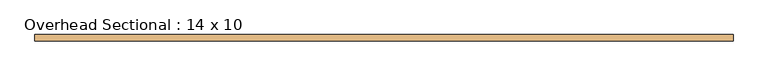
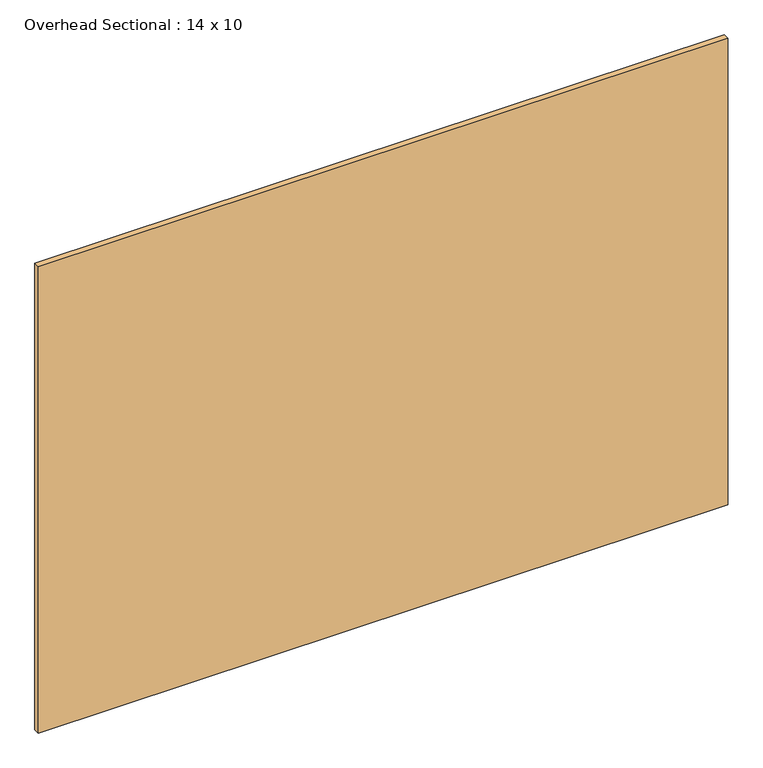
"""IFC4 building model written with IfcOpenShell, lengths in millimetres: door geometry, Overhead Sectional : 14 x 10."""

import ifcopenshell
import ifcopenshell.guid

model = None  # the IFC model being written
_history = None  # IfcOwnerHistory: only IFC2X3 demands one
_inside = {}  # id of a spatial element -> (the spatial element, [elements in it])
_under = {}  # id of a project, library or spatial element -> (it, [spatial elements below it])
_declared = {}  # id of a project -> (the project, [libraries it declares])
_typed = {}  # id of a type object -> (the type object, [elements of that type])
_made_of = {}  # id of a material, layer set ... -> (it, [elements and type objects made of it])


def new_model(schema):
    """Start an empty IFC model of exactly this schema.

    Asked for "IFC4X3", IfcOpenShell would pick the latest addendum, in which some entities
    have other attributes; the version numbers below select the first issue.
    IFC2X3 requires an IfcOwnerHistory on every rooted entity: one is made here for all.
    """
    global model, _history
    if schema == "IFC4X3":
        model = ifcopenshell.file(schema_version=(4, 3, 0, 0))
    else:
        model = ifcopenshell.file(schema=schema)
    _inside.clear()
    _under.clear()
    _declared.clear()
    _typed.clear()
    _made_of.clear()
    _history = None
    if model.schema == "IFC2X3":
        org = make("IfcOrganization", Name="unknown")
        user = make(
            "IfcPersonAndOrganization",
            ThePerson=make("IfcPerson", FamilyName="unknown"),
            TheOrganization=org,
        )
        app = make(
            "IfcApplication",
            ApplicationDeveloper=org,
            Version="unknown",
            ApplicationFullName="unknown",
            ApplicationIdentifier="unknown",
        )
        _history = make(
            "IfcOwnerHistory",
            OwningUser=user,
            OwningApplication=app,
            ChangeAction="ADDED",
            CreationDate=0,
        )
    return model


def make(cls, **values):
    """One entity of the class cls with the attributes given. An attribute that is None is left unset."""
    return model.create_entity(
        cls, **{name: value for name, value in values.items() if value is not None}
    )


def rooted(cls, **values):
    """An entity with a GlobalId (a new one), such as an element, a storey or a relation."""
    return make(cls, GlobalId=ifcopenshell.guid.new(), OwnerHistory=_history, **values)


def si_unit(unit_type, name, prefix=None):
    """IfcSIUnit, for example si_unit("LENGTHUNIT", "METRE", prefix="MILLI")."""
    return make("IfcSIUnit", UnitType=unit_type, Prefix=prefix, Name=name)


def assignment(units):
    """IfcUnitAssignment: the units of a project."""
    return None if units is None else make("IfcUnitAssignment", Units=units)


def point(xyz):
    """IfcCartesianPoint."""
    return None if xyz is None else make("IfcCartesianPoint", Coordinates=xyz)


def direction(xyz):
    """IfcDirection."""
    return None if xyz is None else make("IfcDirection", DirectionRatios=xyz)


def frame(location, z_axis=None, x_axis=None):
    """IfcAxis2Placement3D, a coordinate frame: its origin and axes. An axis left out is left unset."""
    return make(
        "IfcAxis2Placement3D",
        Location=point(location),
        Axis=direction(z_axis),
        RefDirection=direction(x_axis),
    )


def origin():
    """The frame at (0, 0, 0) with its axes left unset."""
    return frame((0.0, 0.0, 0.0))


def origin_with_axes():
    """The frame at (0, 0, 0) with the z axis (0, 0, 1) and the x axis (1, 0, 0) written out."""
    return frame((0.0, 0.0, 0.0), z_axis=(0.0, 0.0, 1.0), x_axis=(1.0, 0.0, 0.0))


def place(relative_to, where):
    """IfcLocalPlacement: puts the frame where relative to a parent placement (None: the world)."""
    return make(
        "IfcLocalPlacement", PlacementRelTo=relative_to, RelativePlacement=where
    )


def context(
    kind, dimensions, precision=None, world=None, true_north=None, identifier=None
):
    """IfcGeometricRepresentationContext, for example the 3D "Model" context."""
    return make(
        "IfcGeometricRepresentationContext",
        ContextIdentifier=identifier,
        ContextType=kind,
        CoordinateSpaceDimension=dimensions,
        Precision=precision,
        WorldCoordinateSystem=world,
        TrueNorth=true_north,
    )


def project(units=None, contexts=None):
    """IfcProject with its units and contexts."""
    return rooted(
        "IfcProject",
        Name="project",
        RepresentationContexts=contexts,
        UnitsInContext=assignment(units),
    )


def spatial(cls, under=None, at=None, **own):
    """A site, building, storey or space (cls), placed at a placement, below another one or the project."""
    s = rooted(cls, ObjectPlacement=at, **own)
    if under is not None:
        _under.setdefault(under.id(), (under, []))[1].append(s)
    return s


def polyline(points):
    """IfcPolyline through the points."""
    return make("IfcPolyline", Points=[point(p) for p in points])


def outline(outer, holes=None, kind="AREA"):
    """IfcArbitraryClosedProfileDef: a profile drawn as a closed curve; with holes, ...WithVoids."""
    if holes is None:
        return make("IfcArbitraryClosedProfileDef", ProfileType=kind, OuterCurve=outer)
    return make(
        "IfcArbitraryProfileDefWithVoids",
        ProfileType=kind,
        OuterCurve=outer,
        InnerCurves=holes,
    )


def extrude(swept, where, along, depth):
    """IfcExtrudedAreaSolid: the profile swept, set in the frame where, extruded along a direction by depth."""
    return make(
        "IfcExtrudedAreaSolid",
        SweptArea=swept,
        Position=where,
        ExtrudedDirection=direction(along),
        Depth=depth,
    )


def shape(context_of_items, identifier, shape_type, items):
    """IfcShapeRepresentation: the items that make up one representation, for example the "Body"."""
    return make(
        "IfcShapeRepresentation",
        ContextOfItems=context_of_items,
        RepresentationIdentifier=identifier,
        RepresentationType=shape_type,
        Items=items,
    )


def source(mapping_origin, context_of_items, identifier, shape_type, items):
    """IfcRepresentationMap: a shape defined once, which mapped items show again and again."""
    return make(
        "IfcRepresentationMap",
        MappingOrigin=mapping_origin,
        MappedRepresentation=shape(context_of_items, identifier, shape_type, items),
    )


def transform(
    local_origin,
    x_axis=None,
    y_axis=None,
    z_axis=None,
    scale=None,
    scale2=None,
    scale3=None,
    uniform=True,
):
    """IfcCartesianTransformationOperator3D, or its non-uniform kind. x_axis, y_axis, z_axis: its Axis1, 2, 3."""
    if uniform:
        return make(
            "IfcCartesianTransformationOperator3D",
            Axis1=direction(x_axis),
            Axis2=direction(y_axis),
            LocalOrigin=point(local_origin),
            Scale=scale,
            Axis3=direction(z_axis),
        )
    return make(
        "IfcCartesianTransformationOperator3DnonUniform",
        Axis1=direction(x_axis),
        Axis2=direction(y_axis),
        LocalOrigin=point(local_origin),
        Scale=scale,
        Axis3=direction(z_axis),
        Scale2=scale2,
        Scale3=scale3,
    )


def mapped(mapping_source, mapping_target):
    """IfcMappedItem: shows the shape of a source again, moved by a transform."""
    return make(
        "IfcMappedItem", MappingSource=mapping_source, MappingTarget=mapping_target
    )


def made_of(thing, what):
    """Note that an element or type object is made of a material, layer set ...; save() writes the relation."""
    if what is not None:
        _made_of.setdefault(what.id(), (what, []))[1].append(thing)
    return thing


def element(
    cls,
    number,
    at=None,
    inside=None,
    cuts=None,
    type_object=None,
    material=None,
    context=None,
    identifier="Body",
    shape_type=None,
    held_by="IfcProductDefinitionShape",
    body=None,
    shapes=None,
    **own,
):
    """One element of the class cls, such as IfcWall. Its Tag is "e" and its number.

    at: its placement. inside: the storey or other place that contains it. cuts: it is an
    opening in that element (IfcRelVoidsElement). A single representation is given by context,
    identifier, shape_type and body (its items); several are given by shapes. held_by: the class
    of the entity that holds the representations. save() writes the other relations.
    """
    e = rooted(cls, Tag="e%d" % number, ObjectPlacement=at, **own)
    if body is not None:
        shapes = [shape(context, identifier, shape_type, body)]
    if shapes is not None:
        e.Representation = make(held_by, Representations=shapes)
    if inside is not None:
        _inside.setdefault(inside.id(), (inside, []))[1].append(e)
    if cuts is not None:
        rooted(
            "IfcRelVoidsElement", RelatingBuildingElement=cuts, RelatedOpeningElement=e
        )
    if type_object is not None:
        _typed.setdefault(type_object.id(), (type_object, []))[1].append(e)
    return made_of(e, material)


def aggregate(whole, parts):
    """IfcRelAggregates: a whole, such as a stair, and the parts it consists of."""
    return rooted("IfcRelAggregates", RelatingObject=whole, RelatedObjects=parts)


def save(model, path):
    """Write the relations noted so far, then the file.

    IfcRelAggregates (storeys below a building ...), IfcRelContainedInSpatialStructure (elements
    in a storey), IfcRelDefinesByType, IfcRelAssociatesMaterial and IfcRelDeclares: one each for
    every whole, place, type object, material and project.
    """
    for whole, parts in _under.values():
        aggregate(whole, parts)
    for where, things in _inside.values():
        rooted(
            "IfcRelContainedInSpatialStructure",
            RelatedElements=things,
            RelatingStructure=where,
        )
    for kind, things in _typed.values():
        rooted("IfcRelDefinesByType", RelatedObjects=things, RelatingType=kind)
    for what, things in _made_of.values():
        rooted("IfcRelAssociatesMaterial", RelatedObjects=things, RelatingMaterial=what)
    for by, libraries in _declared.values():
        rooted("IfcRelDeclares", RelatingContext=by, RelatedDefinitions=libraries)
    model.write(path)


def overhead_sectional_14_x_10_8c0ee61c(model_context):
    return source(origin(), model_context, "Body", "SweptSolid", [
        extrude(outline(polyline([(2133.6, -101.6), (2133.6, -139.7), (-2133.6, -139.7), (-2133.6, -101.6), (2133.6, -101.6)])), origin_with_axes(), (0.0, 0.0, 1.0), 3048.0),
    ])


if __name__ == "__main__":
    model = new_model("IFC4")
    model_context = context("Model", 3, world=origin())
    ifc_project = project(units=[si_unit("LENGTHUNIT", "METRE", prefix="MILLI")], contexts=[model_context])
    site = spatial("IfcSite", under=ifc_project)
    building = spatial("IfcBuilding", under=site)
    placement = place(None, origin())
    overhead_sectional_14_x_10_shape = overhead_sectional_14_x_10_8c0ee61c(model_context)
    element("IfcDoor", 1, ObjectType="Overhead Sectional : 14 x 10", at=placement, inside=building, context=model_context, shape_type="MappedRepresentation", body=[
        mapped(overhead_sectional_14_x_10_shape, transform((0.0, 0.0, 0.0), x_axis=(1.0, 0.0, 0.0), y_axis=(0.0, 1.0, 0.0), z_axis=(0.0, 0.0, 1.0))),
    ])
    save(model, "model.ifc")
